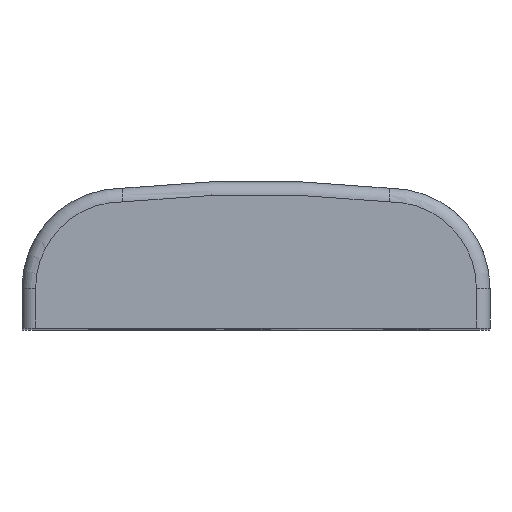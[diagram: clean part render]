
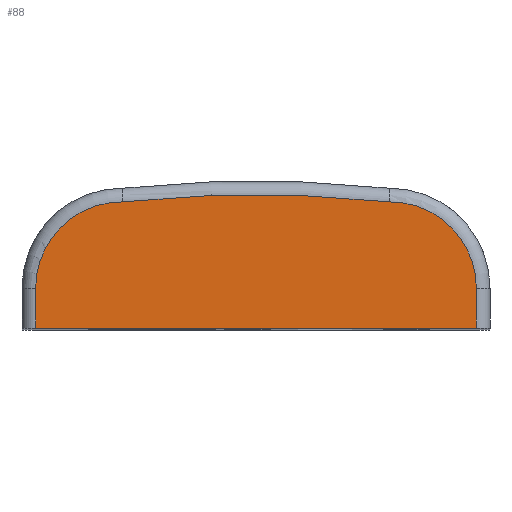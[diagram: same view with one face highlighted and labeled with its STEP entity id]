
A CAD part, top view. The second image highlights one B-rep face of the part: STEP entity #88.
In plain terms, the highlighted planar face has unit normal (0, 0, 1).
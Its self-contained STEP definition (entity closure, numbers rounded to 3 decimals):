
#88=ADVANCED_FACE('',(#163),#690,.T.);
#163=FACE_OUTER_BOUND('',#238,.F.);
#238=EDGE_LOOP('',(#327,#328,#329,#330,#331,#332));
#327=ORIENTED_EDGE('',*,*,#870,.T.);
#328=ORIENTED_EDGE('',*,*,#867,.T.);
#329=ORIENTED_EDGE('',*,*,#865,.F.);
#330=ORIENTED_EDGE('',*,*,#863,.F.);
#331=ORIENTED_EDGE('',*,*,#861,.F.);
#332=ORIENTED_EDGE('',*,*,#859,.T.);
#690=PLANE('',#1411);
#755=CIRCLE('',#1385,95.);
#757=CIRCLE('',#1387,1348.766);
#759=CIRCLE('',#1389,95.);
#859=EDGE_CURVE('',#1291,#1294,#1032,.T.);
#861=EDGE_CURVE('',#1291,#1289,#755,.T.);
#863=EDGE_CURVE('',#1289,#1287,#757,.T.);
#865=EDGE_CURVE('',#1287,#1285,#759,.T.);
#867=EDGE_CURVE('',#1293,#1285,#1034,.T.);
#870=EDGE_CURVE('',#1294,#1293,#1037,.T.);
#1032=LINE('',#2056,#1176);
#1034=LINE('',#2064,#1178);
#1037=LINE('',#2067,#1181);
#1176=VECTOR('',#1578,44.);
#1178=VECTOR('',#1592,44.);
#1181=VECTOR('',#1595,485.);
#1285=VERTEX_POINT('',#1890);
#1287=VERTEX_POINT('',#1892);
#1289=VERTEX_POINT('',#1894);
#1291=VERTEX_POINT('',#1896);
#1293=VERTEX_POINT('',#1898);
#1294=VERTEX_POINT('',#1899);
#1385=AXIS2_PLACEMENT_3D('',#2058,#1580,#1581);
#1387=AXIS2_PLACEMENT_3D('',#2060,#1584,#1585);
#1389=AXIS2_PLACEMENT_3D('',#2062,#1588,#1589);
#1411=AXIS2_PLACEMENT_3D('',#2238,#1706,#1707);
#1578=DIRECTION('',(0.,-1.,0.));
#1580=DIRECTION('',(0.,0.,1.));
#1581=DIRECTION('',(1.,0.,0.));
#1584=DIRECTION('',(0.,0.,1.));
#1585=DIRECTION('',(0.109,0.994,0.));
#1588=DIRECTION('',(0.,0.,1.));
#1589=DIRECTION('',(0.008,1.,0.));
#1592=DIRECTION('',(0.,1.,0.));
#1595=DIRECTION('',(-1.,0.,0.));
#1706=DIRECTION('',(0.,0.,1.));
#1707=DIRECTION('',(1.,0.,0.));
#1890=CARTESIAN_POINT('',(-431.609,467.75,1793.716));
#1892=CARTESIAN_POINT('',(-335.823,562.747,1793.716));
#1894=CARTESIAN_POINT('',(-42.396,562.747,1793.716));
#1896=CARTESIAN_POINT('',(53.391,467.75,1793.716));
#1898=CARTESIAN_POINT('',(-431.609,423.75,1793.716));
#1899=CARTESIAN_POINT('',(53.391,423.75,1793.716));
#2056=CARTESIAN_POINT('',(53.391,467.75,1793.716));
#2058=CARTESIAN_POINT('',(-41.609,467.75,1793.716));
#2060=CARTESIAN_POINT('',(-189.109,-778.016,1793.716));
#2062=CARTESIAN_POINT('',(-336.609,467.75,1793.716));
#2064=CARTESIAN_POINT('',(-431.609,423.75,1793.716));
#2067=CARTESIAN_POINT('',(53.391,423.75,1793.716));
#2238=CARTESIAN_POINT('',(-451.761,418.599,1793.716));
